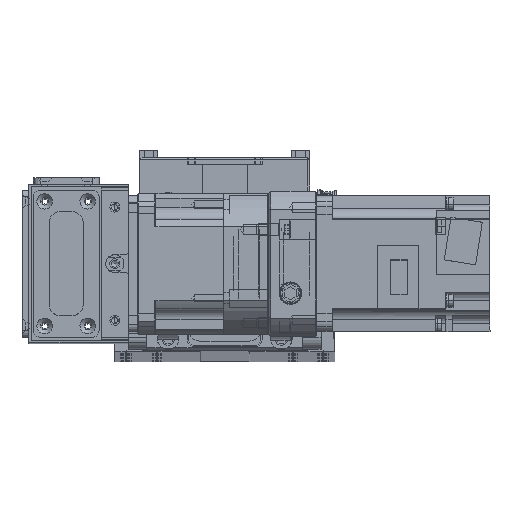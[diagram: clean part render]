
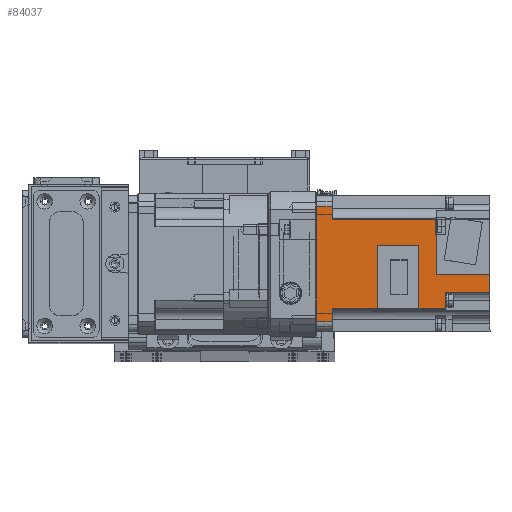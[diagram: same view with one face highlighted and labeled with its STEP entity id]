
A CAD part, top view. The second image highlights one B-rep face of the part: STEP entity #84037.
In plain terms, the highlighted planar face has unit normal (0, 0, 1) as drawn and (0, -1, 0) by its records, which use the part's own axes.
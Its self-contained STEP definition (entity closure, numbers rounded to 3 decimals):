
#6215=FACE_OUTER_BOUND('',#11161,.T.);
#11161=EDGE_LOOP('',(#69446,#69447,#69448,#69449,#69450,#69451,#69452,#69453,
#69454,#69455,#69456,#69457,#69458,#69459,#69460,#69461,#69462,#69463,#69464,
#69465));
#20349=LINE('',#137321,#29405);
#20379=LINE('',#137427,#29435);
#20382=LINE('',#137439,#29438);
#20424=LINE('',#137569,#29480);
#20485=LINE('',#137781,#29541);
#20486=LINE('',#137786,#29542);
#20487=LINE('',#137788,#29543);
#20488=LINE('',#137789,#29544);
#20489=LINE('',#137791,#29545);
#20490=LINE('',#137793,#29546);
#20491=LINE('',#137795,#29547);
#20492=LINE('',#137797,#29548);
#20493=LINE('',#137799,#29549);
#20494=LINE('',#137801,#29550);
#20495=LINE('',#137803,#29551);
#20496=LINE('',#137805,#29552);
#20497=LINE('',#137806,#29553);
#20498=LINE('',#137808,#29554);
#20499=LINE('',#137810,#29555);
#20500=LINE('',#137811,#29556);
#29405=VECTOR('',#109055,51.);
#29435=VECTOR('',#109143,3.41);
#29438=VECTOR('',#109152,2.444);
#29480=VECTOR('',#109272,7.8);
#29541=VECTOR('',#109509,5.941);
#29542=VECTOR('',#109516,7.);
#29543=VECTOR('',#109519,0.905);
#29544=VECTOR('',#109520,45.6);
#29545=VECTOR('',#109521,7.);
#29546=VECTOR('',#109522,5.941);
#29547=VECTOR('',#109523,19.9);
#29548=VECTOR('',#109524,27.559);
#29549=VECTOR('',#109525,18.35);
#29550=VECTOR('',#109526,27.559);
#29551=VECTOR('',#109527,11.85);
#29552=VECTOR('',#109528,7.059);
#29553=VECTOR('',#109529,19.5);
#29554=VECTOR('',#109530,23.5);
#29555=VECTOR('',#109531,17.5);
#29556=VECTOR('',#109532,0.5);
#38522=VERTEX_POINT('',#137318);
#38523=VERTEX_POINT('',#137320);
#38568=VERTEX_POINT('',#137423);
#38570=VERTEX_POINT('',#137426);
#38575=VERTEX_POINT('',#137436);
#38576=VERTEX_POINT('',#137438);
#38624=VERTEX_POINT('',#137566);
#38625=VERTEX_POINT('',#137568);
#38687=VERTEX_POINT('',#137778);
#38688=VERTEX_POINT('',#137780);
#38690=VERTEX_POINT('',#137790);
#38691=VERTEX_POINT('',#137792);
#38692=VERTEX_POINT('',#137794);
#38693=VERTEX_POINT('',#137796);
#38694=VERTEX_POINT('',#137798);
#38695=VERTEX_POINT('',#137800);
#38696=VERTEX_POINT('',#137802);
#38697=VERTEX_POINT('',#137804);
#38698=VERTEX_POINT('',#137807);
#38699=VERTEX_POINT('',#137809);
#49193=EDGE_CURVE('',#38522,#38523,#20349,.T.);
#49245=EDGE_CURVE('',#38568,#38570,#20379,.T.);
#49251=EDGE_CURVE('',#38575,#38576,#20382,.T.);
#49316=EDGE_CURVE('',#38624,#38625,#20424,.T.);
#49421=EDGE_CURVE('',#38688,#38687,#20485,.T.);
#49424=EDGE_CURVE('',#38687,#38523,#20486,.T.);
#49425=EDGE_CURVE('',#38576,#38568,#20487,.T.);
#49426=EDGE_CURVE('',#38688,#38575,#20488,.T.);
#49427=EDGE_CURVE('',#38690,#38522,#20489,.T.);
#49428=EDGE_CURVE('',#38690,#38691,#20490,.T.);
#49429=EDGE_CURVE('',#38691,#38692,#20491,.T.);
#49430=EDGE_CURVE('',#38692,#38693,#20492,.T.);
#49431=EDGE_CURVE('',#38693,#38694,#20493,.T.);
#49432=EDGE_CURVE('',#38694,#38695,#20494,.T.);
#49433=EDGE_CURVE('',#38696,#38695,#20495,.T.);
#49434=EDGE_CURVE('',#38697,#38696,#20496,.T.);
#49435=EDGE_CURVE('',#38625,#38697,#20497,.T.);
#49436=EDGE_CURVE('',#38624,#38698,#20498,.T.);
#49437=EDGE_CURVE('',#38699,#38698,#20499,.T.);
#49438=EDGE_CURVE('',#38570,#38699,#20500,.T.);
#69446=ORIENTED_EDGE('',*,*,#49425,.F.);
#69447=ORIENTED_EDGE('',*,*,#49251,.F.);
#69448=ORIENTED_EDGE('',*,*,#49426,.F.);
#69449=ORIENTED_EDGE('',*,*,#49421,.T.);
#69450=ORIENTED_EDGE('',*,*,#49424,.T.);
#69451=ORIENTED_EDGE('',*,*,#49193,.F.);
#69452=ORIENTED_EDGE('',*,*,#49427,.F.);
#69453=ORIENTED_EDGE('',*,*,#49428,.T.);
#69454=ORIENTED_EDGE('',*,*,#49429,.T.);
#69455=ORIENTED_EDGE('',*,*,#49430,.T.);
#69456=ORIENTED_EDGE('',*,*,#49431,.T.);
#69457=ORIENTED_EDGE('',*,*,#49432,.T.);
#69458=ORIENTED_EDGE('',*,*,#49433,.F.);
#69459=ORIENTED_EDGE('',*,*,#49434,.F.);
#69460=ORIENTED_EDGE('',*,*,#49435,.F.);
#69461=ORIENTED_EDGE('',*,*,#49316,.F.);
#69462=ORIENTED_EDGE('',*,*,#49436,.T.);
#69463=ORIENTED_EDGE('',*,*,#49437,.F.);
#69464=ORIENTED_EDGE('',*,*,#49438,.F.);
#69465=ORIENTED_EDGE('',*,*,#49245,.F.);
#79819=PLANE('',#91731);
#84037=ADVANCED_FACE('',(#6215),#79819,.F.);
#91731=AXIS2_PLACEMENT_3D('',#137787,#109517,#109518);
#109055=DIRECTION('',(1.,0.,0.));
#109143=DIRECTION('',(-1.,0.,0.));
#109152=DIRECTION('',(-1.,0.,0.));
#109272=DIRECTION('',(-1.,0.,0.));
#109509=DIRECTION('',(1.,0.,0.));
#109516=DIRECTION('',(0.,0.,1.));
#109517=DIRECTION('center_axis',(0.,1.,0.));
#109518=DIRECTION('ref_axis',(-1.,0.,0.));
#109519=DIRECTION('',(-1.,0.,0.));
#109520=DIRECTION('',(0.,0.,-1.));
#109521=DIRECTION('',(0.,0.,1.));
#109522=DIRECTION('',(1.,0.,0.));
#109523=DIRECTION('',(0.,0.,-1.));
#109524=DIRECTION('',(1.,0.,0.));
#109525=DIRECTION('',(0.,0.,-1.));
#109526=DIRECTION('',(-1.,0.,0.));
#109527=DIRECTION('',(0.,0.,1.));
#109528=DIRECTION('',(-1.,0.,0.));
#109529=DIRECTION('',(0.,0.,1.));
#109530=DIRECTION('',(0.,0.,1.));
#109531=DIRECTION('',(-1.,0.,0.));
#109532=DIRECTION('',(0.,0.,-1.));
#137318=CARTESIAN_POINT('',(-25.5,-30.,0.));
#137320=CARTESIAN_POINT('',(25.5,-30.,0.));
#137321=CARTESIAN_POINT('',(-25.5,-30.,0.));
#137423=CARTESIAN_POINT('',(16.21,-30.,-52.6));
#137426=CARTESIAN_POINT('',(12.8,-30.,-52.6));
#137427=CARTESIAN_POINT('',(16.21,-30.,-52.6));
#137436=CARTESIAN_POINT('',(19.559,-30.,-52.6));
#137438=CARTESIAN_POINT('',(17.115,-30.,-52.6));
#137439=CARTESIAN_POINT('',(19.559,-30.,-52.6));
#137566=CARTESIAN_POINT('',(-4.7,-30.,-76.6));
#137568=CARTESIAN_POINT('',(-12.5,-30.,-76.6));
#137569=CARTESIAN_POINT('',(-4.7,-30.,-76.6));
#137778=CARTESIAN_POINT('',(25.5,-30.,-7.));
#137780=CARTESIAN_POINT('',(19.559,-30.,-7.));
#137781=CARTESIAN_POINT('',(19.559,-30.,-7.));
#137786=CARTESIAN_POINT('',(25.5,-30.,-7.));
#137787=CARTESIAN_POINT('Origin',(0.,-30.,-3.9));
#137788=CARTESIAN_POINT('',(17.115,-30.,-52.6));
#137789=CARTESIAN_POINT('',(19.559,-30.,-7.));
#137790=CARTESIAN_POINT('',(-25.5,-30.,-7.));
#137791=CARTESIAN_POINT('',(-25.5,-30.,-7.));
#137792=CARTESIAN_POINT('',(-19.559,-30.,-7.));
#137793=CARTESIAN_POINT('',(-25.5,-30.,-7.));
#137794=CARTESIAN_POINT('',(-19.559,-30.,-26.9));
#137795=CARTESIAN_POINT('',(-19.559,-30.,-7.));
#137796=CARTESIAN_POINT('',(8.,-30.,-26.9));
#137797=CARTESIAN_POINT('',(-19.559,-30.,-26.9));
#137798=CARTESIAN_POINT('',(8.,-30.,-45.25));
#137799=CARTESIAN_POINT('',(8.,-30.,-26.9));
#137800=CARTESIAN_POINT('',(-19.559,-30.,-45.25));
#137801=CARTESIAN_POINT('',(8.,-30.,-45.25));
#137802=CARTESIAN_POINT('',(-19.559,-30.,-57.1));
#137803=CARTESIAN_POINT('',(-19.559,-30.,-57.1));
#137804=CARTESIAN_POINT('',(-12.5,-30.,-57.1));
#137805=CARTESIAN_POINT('',(-12.5,-30.,-57.1));
#137806=CARTESIAN_POINT('',(-12.5,-30.,-76.6));
#137807=CARTESIAN_POINT('',(-4.7,-30.,-53.1));
#137808=CARTESIAN_POINT('',(-4.7,-30.,-76.6));
#137809=CARTESIAN_POINT('',(12.8,-30.,-53.1));
#137810=CARTESIAN_POINT('',(12.8,-30.,-53.1));
#137811=CARTESIAN_POINT('',(12.8,-30.,-52.6));
